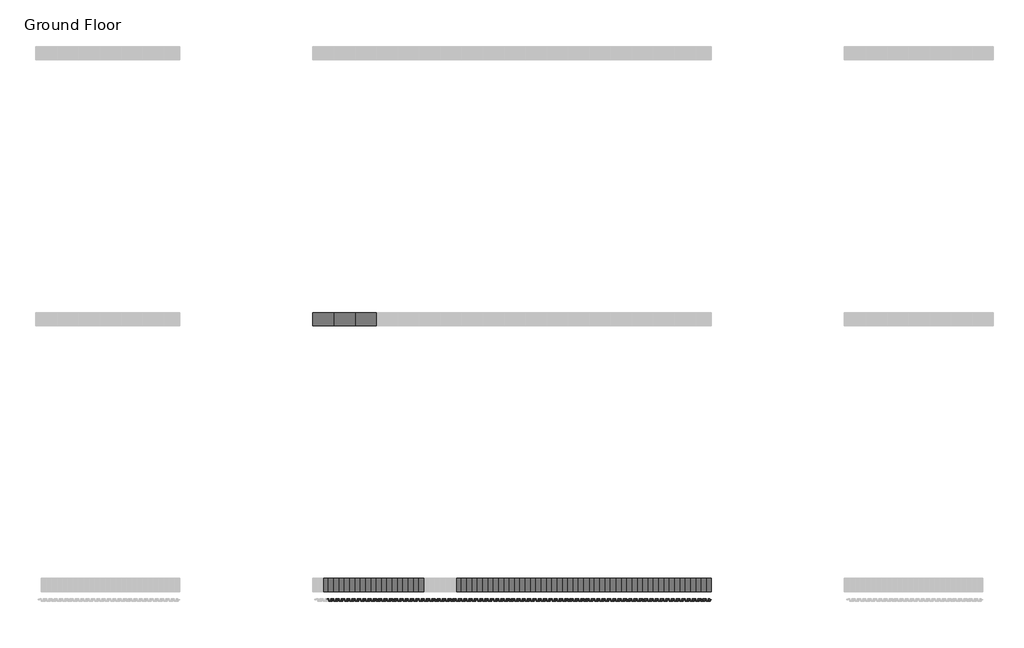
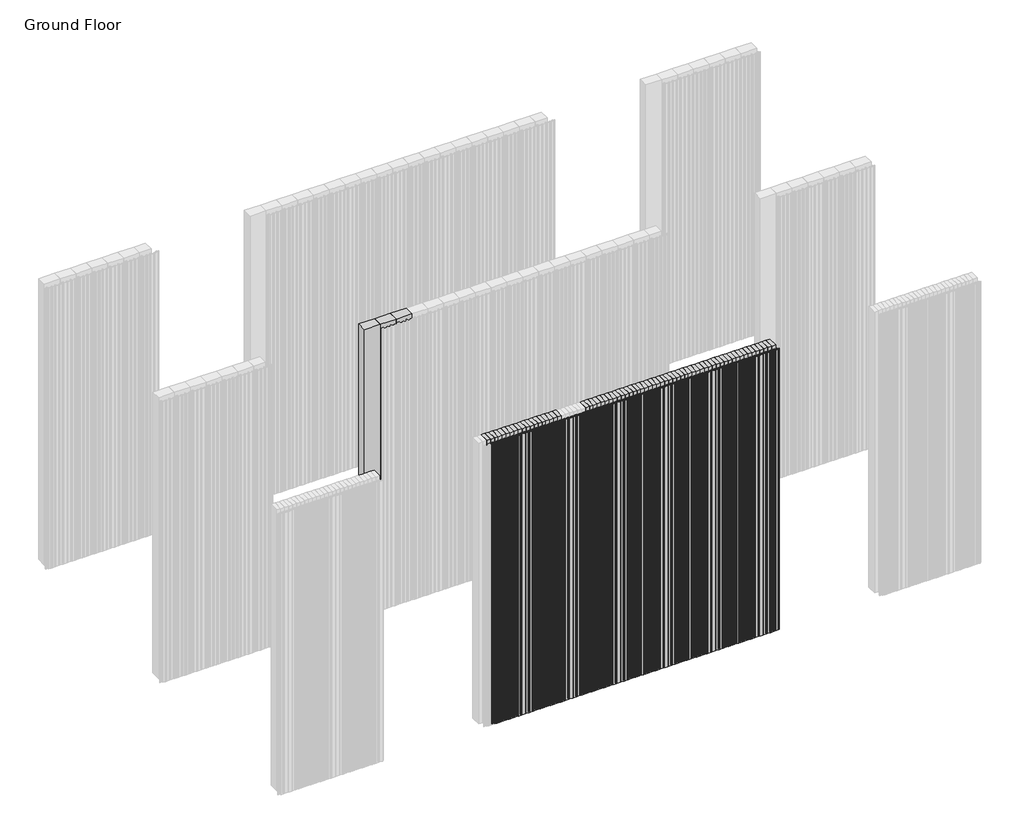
# One storey, part 25 of 350: 72 members, 70 plates.
"""IFC4 building model written with IfcOpenShell, lengths in millimetres."""

from ifc_helpers import new_model, si_unit, origin, place, context, project, spatial, transform, mapped, element, save
from components import rectangular_mullion_4c3290df, empty_system_panel_empty_086c6263, empty_system_panel_empty_a0fcacb3, empty_system_panel_empty_3b645525

model = new_model("IFC4")

# Units and contexts
model_context = context("Model", 3, world=origin())
ifc_project = project(units=[si_unit("LENGTHUNIT", "METRE", prefix="MILLI")], contexts=[model_context])

# Site, building, storey
site = spatial("IfcSite", under=ifc_project)
building = spatial("IfcBuilding", under=site)
storey = spatial("IfcBuildingStorey", under=building, Name="Ground Floor", Elevation=0.0)

# Members
placement = place(None, origin())
rectangular_mullion_shape = rectangular_mullion_4c3290df(model_context)
element("IfcMember", 1, ObjectType="Rectangular Mullion : Cladding_Aluminium_Modinex_AluSelekta_Castelation_ScreenClad_40_EnglishOak", at=placement, inside=storey, context=model_context, shape_type="MappedRepresentation", body=[
    mapped(rectangular_mullion_shape, transform((39156.4361642, 4968.2978302, 0.0), x_axis=(1.0, 0.0, 0.0), y_axis=(0.0, -1.0, 0.0), z_axis=(0.0, 0.0, -1.0))),
])
element("IfcMember", 2, ObjectType="Rectangular Mullion : Cladding_Aluminium_Modinex_AluSelekta_Castelation_ScreenClad_40_EnglishOak", at=placement, inside=storey, context=model_context, shape_type="MappedRepresentation", body=[
    mapped(rectangular_mullion_shape, transform((39196.4361642, 4968.2978302, 0.0), x_axis=(1.0, 0.0, 0.0), y_axis=(0.0, -1.0, 0.0), z_axis=(0.0, 0.0, -1.0))),
])
element("IfcMember", 3, ObjectType="Rectangular Mullion : Cladding_Aluminium_Modinex_AluSelekta_Castelation_ScreenClad_40_EnglishOak", at=placement, inside=storey, context=model_context, shape_type="MappedRepresentation", body=[
    mapped(rectangular_mullion_shape, transform((39236.4361642, 4968.2978302, 0.0), x_axis=(1.0, 0.0, 0.0), y_axis=(0.0, -1.0, 0.0), z_axis=(0.0, 0.0, -1.0))),
])
element("IfcMember", 4, ObjectType="Rectangular Mullion : Cladding_Aluminium_Modinex_AluSelekta_Castelation_ScreenClad_40_EnglishOak", at=placement, inside=storey, context=model_context, shape_type="MappedRepresentation", body=[
    mapped(rectangular_mullion_shape, transform((39276.4361642, 4968.2978302, 0.0), x_axis=(1.0, 0.0, 0.0), y_axis=(0.0, -1.0, 0.0), z_axis=(0.0, 0.0, -1.0))),
])
element("IfcMember", 5, ObjectType="Rectangular Mullion : Cladding_Aluminium_Modinex_AluSelekta_Castelation_ScreenClad_40_EnglishOak", at=placement, inside=storey, context=model_context, shape_type="MappedRepresentation", body=[
    mapped(rectangular_mullion_shape, transform((39316.4361642, 4968.2978302, 0.0), x_axis=(1.0, 0.0, 0.0), y_axis=(0.0, -1.0, 0.0), z_axis=(0.0, 0.0, -1.0))),
])
element("IfcMember", 6, ObjectType="Rectangular Mullion : Cladding_Aluminium_Modinex_AluSelekta_Castelation_ScreenClad_40_EnglishOak", at=placement, inside=storey, context=model_context, shape_type="MappedRepresentation", body=[
    mapped(rectangular_mullion_shape, transform((39356.4361642, 4968.2978302, 0.0), x_axis=(1.0, 0.0, 0.0), y_axis=(0.0, -1.0, 0.0), z_axis=(0.0, 0.0, -1.0))),
])
element("IfcMember", 7, ObjectType="Rectangular Mullion : Cladding_Aluminium_Modinex_AluSelekta_Castelation_ScreenClad_40_EnglishOak", at=placement, inside=storey, context=model_context, shape_type="MappedRepresentation", body=[
    mapped(rectangular_mullion_shape, transform((39396.4361642, 4968.2978302, 0.0), x_axis=(1.0, 0.0, 0.0), y_axis=(0.0, -1.0, 0.0), z_axis=(0.0, 0.0, -1.0))),
])
element("IfcMember", 8, ObjectType="Rectangular Mullion : Cladding_Aluminium_Modinex_AluSelekta_Castelation_ScreenClad_40_EnglishOak", at=placement, inside=storey, context=model_context, shape_type="MappedRepresentation", body=[
    mapped(rectangular_mullion_shape, transform((39436.4361642, 4968.2978302, 0.0), x_axis=(1.0, 0.0, 0.0), y_axis=(0.0, -1.0, 0.0), z_axis=(0.0, 0.0, -1.0))),
])
element("IfcMember", 9, ObjectType="Rectangular Mullion : Cladding_Aluminium_Modinex_AluSelekta_Castelation_ScreenClad_40_EnglishOak", at=placement, inside=storey, context=model_context, shape_type="MappedRepresentation", body=[
    mapped(rectangular_mullion_shape, transform((39476.4361642, 4968.2978302, 0.0), x_axis=(1.0, 0.0, 0.0), y_axis=(0.0, -1.0, 0.0), z_axis=(0.0, 0.0, -1.0))),
])
element("IfcMember", 10, ObjectType="Rectangular Mullion : Cladding_Aluminium_Modinex_AluSelekta_Castelation_ScreenClad_40_EnglishOak", at=placement, inside=storey, context=model_context, shape_type="MappedRepresentation", body=[
    mapped(rectangular_mullion_shape, transform((39516.4361642, 4968.2978302, 0.0), x_axis=(1.0, 0.0, 0.0), y_axis=(0.0, -1.0, 0.0), z_axis=(0.0, 0.0, -1.0))),
])
element("IfcMember", 11, ObjectType="Rectangular Mullion : Cladding_Aluminium_Modinex_AluSelekta_Castelation_ScreenClad_40_EnglishOak", at=placement, inside=storey, context=model_context, shape_type="MappedRepresentation", body=[
    mapped(rectangular_mullion_shape, transform((39556.4361642, 4968.2978302, 0.0), x_axis=(1.0, 0.0, 0.0), y_axis=(0.0, -1.0, 0.0), z_axis=(0.0, 0.0, -1.0))),
])
element("IfcMember", 12, ObjectType="Rectangular Mullion : Cladding_Aluminium_Modinex_AluSelekta_Castelation_ScreenClad_40_EnglishOak", at=placement, inside=storey, context=model_context, shape_type="MappedRepresentation", body=[
    mapped(rectangular_mullion_shape, transform((39596.4361642, 4968.2978302, 0.0), x_axis=(1.0, 0.0, 0.0), y_axis=(0.0, -1.0, 0.0), z_axis=(0.0, 0.0, -1.0))),
])
element("IfcMember", 13, ObjectType="Rectangular Mullion : Cladding_Aluminium_Modinex_AluSelekta_Castelation_ScreenClad_40_EnglishOak", at=placement, inside=storey, context=model_context, shape_type="MappedRepresentation", body=[
    mapped(rectangular_mullion_shape, transform((39636.4361642, 4968.2978302, 0.0), x_axis=(1.0, 0.0, 0.0), y_axis=(0.0, -1.0, 0.0), z_axis=(0.0, 0.0, -1.0))),
])
element("IfcMember", 14, ObjectType="Rectangular Mullion : Cladding_Aluminium_Modinex_AluSelekta_Castelation_ScreenClad_40_EnglishOak", at=placement, inside=storey, context=model_context, shape_type="MappedRepresentation", body=[
    mapped(rectangular_mullion_shape, transform((39676.4361642, 4968.2978302, 0.0), x_axis=(1.0, 0.0, 0.0), y_axis=(0.0, -1.0, 0.0), z_axis=(0.0, 0.0, -1.0))),
])
element("IfcMember", 15, ObjectType="Rectangular Mullion : Cladding_Aluminium_Modinex_AluSelekta_Castelation_ScreenClad_40_EnglishOak", at=placement, inside=storey, context=model_context, shape_type="MappedRepresentation", body=[
    mapped(rectangular_mullion_shape, transform((39716.4361642, 4968.2978302, 0.0), x_axis=(1.0, 0.0, 0.0), y_axis=(0.0, -1.0, 0.0), z_axis=(0.0, 0.0, -1.0))),
])
element("IfcMember", 16, ObjectType="Rectangular Mullion : Cladding_Aluminium_Modinex_AluSelekta_Castelation_ScreenClad_40_EnglishOak", at=placement, inside=storey, context=model_context, shape_type="MappedRepresentation", body=[
    mapped(rectangular_mullion_shape, transform((39756.4361642, 4968.2978302, 0.0), x_axis=(1.0, 0.0, 0.0), y_axis=(0.0, -1.0, 0.0), z_axis=(0.0, 0.0, -1.0))),
])
element("IfcMember", 17, ObjectType="Rectangular Mullion : Cladding_Aluminium_Modinex_AluSelekta_Castelation_ScreenClad_40_EnglishOak", at=placement, inside=storey, context=model_context, shape_type="MappedRepresentation", body=[
    mapped(rectangular_mullion_shape, transform((39796.4361642, 4968.2978302, 0.0), x_axis=(1.0, 0.0, 0.0), y_axis=(0.0, -1.0, 0.0), z_axis=(0.0, 0.0, -1.0))),
])
element("IfcMember", 18, ObjectType="Rectangular Mullion : Cladding_Aluminium_Modinex_AluSelekta_Castelation_ScreenClad_40_EnglishOak", at=placement, inside=storey, context=model_context, shape_type="MappedRepresentation", body=[
    mapped(rectangular_mullion_shape, transform((39836.4361642, 4968.2978302, 0.0), x_axis=(1.0, 0.0, 0.0), y_axis=(0.0, -1.0, 0.0), z_axis=(0.0, 0.0, -1.0))),
])
element("IfcMember", 19, ObjectType="Rectangular Mullion : Cladding_Aluminium_Modinex_AluSelekta_Castelation_ScreenClad_40_EnglishOak", at=placement, inside=storey, context=model_context, shape_type="MappedRepresentation", body=[
    mapped(rectangular_mullion_shape, transform((39876.4361642, 4968.2978302, 0.0), x_axis=(1.0, 0.0, 0.0), y_axis=(0.0, -1.0, 0.0), z_axis=(0.0, 0.0, -1.0))),
])
element("IfcMember", 20, ObjectType="Rectangular Mullion : Cladding_Aluminium_Modinex_AluSelekta_Castelation_ScreenClad_40_EnglishOak", at=placement, inside=storey, context=model_context, shape_type="MappedRepresentation", body=[
    mapped(rectangular_mullion_shape, transform((39116.4361642, 4968.2978302, 0.0), x_axis=(1.0, 0.0, 0.0), y_axis=(0.0, -1.0, 0.0), z_axis=(0.0, 0.0, -1.0))),
])
element("IfcMember", 21, ObjectType="Rectangular Mullion : Cladding_Aluminium_Modinex_AluSelekta_Castelation_ScreenClad_40_EnglishOak", at=placement, inside=storey, context=model_context, shape_type="MappedRepresentation", body=[
    mapped(rectangular_mullion_shape, transform((39076.4361642, 4968.2978302, 0.0), x_axis=(1.0, 0.0, 0.0), y_axis=(0.0, -1.0, 0.0), z_axis=(0.0, 0.0, -1.0))),
])
element("IfcMember", 22, ObjectType="Rectangular Mullion : Cladding_Aluminium_Modinex_AluSelekta_Castelation_ScreenClad_40_EnglishOak", at=placement, inside=storey, context=model_context, shape_type="MappedRepresentation", body=[
    mapped(rectangular_mullion_shape, transform((39036.4361642, 4968.2978302, 0.0), x_axis=(1.0, 0.0, 0.0), y_axis=(0.0, -1.0, 0.0), z_axis=(0.0, 0.0, -1.0))),
])
element("IfcMember", 23, ObjectType="Rectangular Mullion : Cladding_Aluminium_Modinex_AluSelekta_Castelation_ScreenClad_40_EnglishOak", at=placement, inside=storey, context=model_context, shape_type="MappedRepresentation", body=[
    mapped(rectangular_mullion_shape, transform((38996.4361642, 4968.2978302, 0.0), x_axis=(1.0, 0.0, 0.0), y_axis=(0.0, -1.0, 0.0), z_axis=(0.0, 0.0, -1.0))),
])
element("IfcMember", 24, ObjectType="Rectangular Mullion : Cladding_Aluminium_Modinex_AluSelekta_Castelation_ScreenClad_40_EnglishOak", at=placement, inside=storey, context=model_context, shape_type="MappedRepresentation", body=[
    mapped(rectangular_mullion_shape, transform((38956.4361642, 4968.2978302, 0.0), x_axis=(1.0, 0.0, 0.0), y_axis=(0.0, -1.0, 0.0), z_axis=(0.0, 0.0, -1.0))),
])
element("IfcMember", 25, ObjectType="Rectangular Mullion : Cladding_Aluminium_Modinex_AluSelekta_Castelation_ScreenClad_40_EnglishOak", at=placement, inside=storey, context=model_context, shape_type="MappedRepresentation", body=[
    mapped(rectangular_mullion_shape, transform((38916.4361642, 4968.2978302, 0.0), x_axis=(1.0, 0.0, 0.0), y_axis=(0.0, -1.0, 0.0), z_axis=(0.0, 0.0, -1.0))),
])
element("IfcMember", 26, ObjectType="Rectangular Mullion : Cladding_Aluminium_Modinex_AluSelekta_Castelation_ScreenClad_40_EnglishOak", at=placement, inside=storey, context=model_context, shape_type="MappedRepresentation", body=[
    mapped(rectangular_mullion_shape, transform((38876.4361642, 4968.2978302, 0.0), x_axis=(1.0, 0.0, 0.0), y_axis=(0.0, -1.0, 0.0), z_axis=(0.0, 0.0, -1.0))),
])
element("IfcMember", 27, ObjectType="Rectangular Mullion : Cladding_Aluminium_Modinex_AluSelekta_Castelation_ScreenClad_40_EnglishOak", at=placement, inside=storey, context=model_context, shape_type="MappedRepresentation", body=[
    mapped(rectangular_mullion_shape, transform((38836.4361642, 4968.2978302, 0.0), x_axis=(1.0, 0.0, 0.0), y_axis=(0.0, -1.0, 0.0), z_axis=(0.0, 0.0, -1.0))),
])
element("IfcMember", 28, ObjectType="Rectangular Mullion : Cladding_Aluminium_Modinex_AluSelekta_Castelation_ScreenClad_40_EnglishOak", at=placement, inside=storey, context=model_context, shape_type="MappedRepresentation", body=[
    mapped(rectangular_mullion_shape, transform((38796.4361642, 4968.2978302, 0.0), x_axis=(1.0, 0.0, 0.0), y_axis=(0.0, -1.0, 0.0), z_axis=(0.0, 0.0, -1.0))),
])
element("IfcMember", 29, ObjectType="Rectangular Mullion : Cladding_Aluminium_Modinex_AluSelekta_Castelation_ScreenClad_40_EnglishOak", at=placement, inside=storey, context=model_context, shape_type="MappedRepresentation", body=[
    mapped(rectangular_mullion_shape, transform((38756.4361642, 4968.2978302, 0.0), x_axis=(1.0, 0.0, 0.0), y_axis=(0.0, -1.0, 0.0), z_axis=(0.0, 0.0, -1.0))),
])
element("IfcMember", 30, ObjectType="Rectangular Mullion : Cladding_Aluminium_Modinex_AluSelekta_Castelation_ScreenClad_40_EnglishOak", at=placement, inside=storey, context=model_context, shape_type="MappedRepresentation", body=[
    mapped(rectangular_mullion_shape, transform((38716.4361642, 4968.2978302, 0.0), x_axis=(1.0, 0.0, 0.0), y_axis=(0.0, -1.0, 0.0), z_axis=(0.0, 0.0, -1.0))),
])
element("IfcMember", 31, ObjectType="Rectangular Mullion : Cladding_Aluminium_Modinex_AluSelekta_Castelation_ScreenClad_40_EnglishOak", at=placement, inside=storey, context=model_context, shape_type="MappedRepresentation", body=[
    mapped(rectangular_mullion_shape, transform((38676.4361642, 4968.2978302, 0.0), x_axis=(1.0, 0.0, 0.0), y_axis=(0.0, -1.0, 0.0), z_axis=(0.0, 0.0, -1.0))),
])
element("IfcMember", 32, ObjectType="Rectangular Mullion : Cladding_Aluminium_Modinex_AluSelekta_Castelation_ScreenClad_40_EnglishOak", at=placement, inside=storey, context=model_context, shape_type="MappedRepresentation", body=[
    mapped(rectangular_mullion_shape, transform((38636.4361642, 4968.2978302, 0.0), x_axis=(1.0, 0.0, 0.0), y_axis=(0.0, -1.0, 0.0), z_axis=(0.0, 0.0, -1.0))),
])
element("IfcMember", 33, ObjectType="Rectangular Mullion : Cladding_Aluminium_Modinex_AluSelekta_Castelation_ScreenClad_40_EnglishOak", at=placement, inside=storey, context=model_context, shape_type="MappedRepresentation", body=[
    mapped(rectangular_mullion_shape, transform((38596.4361642, 4968.2978302, 0.0), x_axis=(1.0, 0.0, 0.0), y_axis=(0.0, -1.0, 0.0), z_axis=(0.0, 0.0, -1.0))),
])
element("IfcMember", 34, ObjectType="Rectangular Mullion : Cladding_Aluminium_Modinex_AluSelekta_Castelation_ScreenClad_40_EnglishOak", at=placement, inside=storey, context=model_context, shape_type="MappedRepresentation", body=[
    mapped(rectangular_mullion_shape, transform((38556.4361642, 4968.2978302, 0.0), x_axis=(1.0, 0.0, 0.0), y_axis=(0.0, -1.0, 0.0), z_axis=(0.0, 0.0, -1.0))),
])
element("IfcMember", 35, ObjectType="Rectangular Mullion : Cladding_Aluminium_Modinex_AluSelekta_Castelation_ScreenClad_40_EnglishOak", at=placement, inside=storey, context=model_context, shape_type="MappedRepresentation", body=[
    mapped(rectangular_mullion_shape, transform((38516.4361642, 4968.2978302, 0.0), x_axis=(1.0, 0.0, 0.0), y_axis=(0.0, -1.0, 0.0), z_axis=(0.0, 0.0, -1.0))),
])
element("IfcMember", 36, ObjectType="Rectangular Mullion : Cladding_Aluminium_Modinex_AluSelekta_Castelation_ScreenClad_40_EnglishOak", at=placement, inside=storey, context=model_context, shape_type="MappedRepresentation", body=[
    mapped(rectangular_mullion_shape, transform((38476.4361642, 4968.2978302, 0.0), x_axis=(1.0, 0.0, 0.0), y_axis=(0.0, -1.0, 0.0), z_axis=(0.0, 0.0, -1.0))),
])
element("IfcMember", 37, ObjectType="Rectangular Mullion : Cladding_Aluminium_Modinex_AluSelekta_Castelation_ScreenClad_40_EnglishOak", at=placement, inside=storey, context=model_context, shape_type="MappedRepresentation", body=[
    mapped(rectangular_mullion_shape, transform((38436.4361642, 4968.2978302, 0.0), x_axis=(1.0, 0.0, 0.0), y_axis=(0.0, -1.0, 0.0), z_axis=(0.0, 0.0, -1.0))),
])
element("IfcMember", 38, ObjectType="Rectangular Mullion : Cladding_Aluminium_Modinex_AluSelekta_Castelation_ScreenClad_40_EnglishOak", at=placement, inside=storey, context=model_context, shape_type="MappedRepresentation", body=[
    mapped(rectangular_mullion_shape, transform((38396.4361642, 4968.2978302, 0.0), x_axis=(1.0, 0.0, 0.0), y_axis=(0.0, -1.0, 0.0), z_axis=(0.0, 0.0, -1.0))),
])
element("IfcMember", 39, ObjectType="Rectangular Mullion : Cladding_Aluminium_Modinex_AluSelekta_Castelation_ScreenClad_40_EnglishOak", at=placement, inside=storey, context=model_context, shape_type="MappedRepresentation", body=[
    mapped(rectangular_mullion_shape, transform((38356.4361642, 4968.2978302, 0.0), x_axis=(1.0, 0.0, 0.0), y_axis=(0.0, -1.0, 0.0), z_axis=(0.0, 0.0, -1.0))),
])
element("IfcMember", 40, ObjectType="Rectangular Mullion : Cladding_Aluminium_Modinex_AluSelekta_Castelation_ScreenClad_40_EnglishOak", at=placement, inside=storey, context=model_context, shape_type="MappedRepresentation", body=[
    mapped(rectangular_mullion_shape, transform((38316.4361642, 4968.2978302, 0.0), x_axis=(1.0, 0.0, 0.0), y_axis=(0.0, -1.0, 0.0), z_axis=(0.0, 0.0, -1.0))),
])
element("IfcMember", 41, ObjectType="Rectangular Mullion : Cladding_Aluminium_Modinex_AluSelekta_Castelation_ScreenClad_40_EnglishOak", at=placement, inside=storey, context=model_context, shape_type="MappedRepresentation", body=[
    mapped(rectangular_mullion_shape, transform((38276.4361642, 4968.2978302, 0.0), x_axis=(1.0, 0.0, 0.0), y_axis=(0.0, -1.0, 0.0), z_axis=(0.0, 0.0, -1.0))),
])
element("IfcMember", 42, ObjectType="Rectangular Mullion : Cladding_Aluminium_Modinex_AluSelekta_Castelation_ScreenClad_40_EnglishOak", at=placement, inside=storey, context=model_context, shape_type="MappedRepresentation", body=[
    mapped(rectangular_mullion_shape, transform((38236.4361642, 4968.2978302, 0.0), x_axis=(1.0, 0.0, 0.0), y_axis=(0.0, -1.0, 0.0), z_axis=(0.0, 0.0, -1.0))),
])
element("IfcMember", 43, ObjectType="Rectangular Mullion : Cladding_Aluminium_Modinex_AluSelekta_Castelation_ScreenClad_40_EnglishOak", at=placement, inside=storey, context=model_context, shape_type="MappedRepresentation", body=[
    mapped(rectangular_mullion_shape, transform((38196.4361642, 4968.2978302, 0.0), x_axis=(1.0, 0.0, 0.0), y_axis=(0.0, -1.0, 0.0), z_axis=(0.0, 0.0, -1.0))),
])
element("IfcMember", 44, ObjectType="Rectangular Mullion : Cladding_Aluminium_Modinex_AluSelekta_Castelation_ScreenClad_40_EnglishOak", at=placement, inside=storey, context=model_context, shape_type="MappedRepresentation", body=[
    mapped(rectangular_mullion_shape, transform((38156.4361642, 4968.2978302, 0.0), x_axis=(1.0, 0.0, 0.0), y_axis=(0.0, -1.0, 0.0), z_axis=(0.0, 0.0, -1.0))),
])
element("IfcMember", 45, ObjectType="Rectangular Mullion : Cladding_Aluminium_Modinex_AluSelekta_Castelation_ScreenClad_40_EnglishOak", at=placement, inside=storey, context=model_context, shape_type="MappedRepresentation", body=[
    mapped(rectangular_mullion_shape, transform((38116.4361642, 4968.2978302, 0.0), x_axis=(1.0, 0.0, 0.0), y_axis=(0.0, -1.0, 0.0), z_axis=(0.0, 0.0, -1.0))),
])
element("IfcMember", 46, ObjectType="Rectangular Mullion : Cladding_Aluminium_Modinex_AluSelekta_Castelation_ScreenClad_40_EnglishOak", at=placement, inside=storey, context=model_context, shape_type="MappedRepresentation", body=[
    mapped(rectangular_mullion_shape, transform((38076.4361642, 4968.2978302, 0.0), x_axis=(1.0, 0.0, 0.0), y_axis=(0.0, -1.0, 0.0), z_axis=(0.0, 0.0, -1.0))),
])
element("IfcMember", 47, ObjectType="Rectangular Mullion : Cladding_Aluminium_Modinex_AluSelekta_Castelation_ScreenClad_40_EnglishOak", at=placement, inside=storey, context=model_context, shape_type="MappedRepresentation", body=[
    mapped(rectangular_mullion_shape, transform((38036.4361642, 4968.2978302, 0.0), x_axis=(1.0, 0.0, 0.0), y_axis=(0.0, -1.0, 0.0), z_axis=(0.0, 0.0, -1.0))),
])
element("IfcMember", 48, ObjectType="Rectangular Mullion : Cladding_Aluminium_Modinex_AluSelekta_Castelation_ScreenClad_40_EnglishOak", at=placement, inside=storey, context=model_context, shape_type="MappedRepresentation", body=[
    mapped(rectangular_mullion_shape, transform((37996.4361642, 4968.2978302, 0.0), x_axis=(1.0, 0.0, 0.0), y_axis=(0.0, -1.0, 0.0), z_axis=(0.0, 0.0, -1.0))),
])
element("IfcMember", 49, ObjectType="Rectangular Mullion : Cladding_Aluminium_Modinex_AluSelekta_Castelation_ScreenClad_40_EnglishOak", at=placement, inside=storey, context=model_context, shape_type="MappedRepresentation", body=[
    mapped(rectangular_mullion_shape, transform((37956.4361642, 4968.2978302, 0.0), x_axis=(1.0, 0.0, 0.0), y_axis=(0.0, -1.0, 0.0), z_axis=(0.0, 0.0, -1.0))),
])
element("IfcMember", 50, ObjectType="Rectangular Mullion : Cladding_Aluminium_Modinex_AluSelekta_Castelation_ScreenClad_40_EnglishOak", at=placement, inside=storey, context=model_context, shape_type="MappedRepresentation", body=[
    mapped(rectangular_mullion_shape, transform((37916.4361642, 4968.2978302, 0.0), x_axis=(1.0, 0.0, 0.0), y_axis=(0.0, -1.0, 0.0), z_axis=(0.0, 0.0, -1.0))),
])
element("IfcMember", 51, ObjectType="Rectangular Mullion : Cladding_Aluminium_Modinex_AluSelekta_Castelation_ScreenClad_40_EnglishOak", at=placement, inside=storey, context=model_context, shape_type="MappedRepresentation", body=[
    mapped(rectangular_mullion_shape, transform((37876.4361642, 4968.2978302, 0.0), x_axis=(1.0, 0.0, 0.0), y_axis=(0.0, -1.0, 0.0), z_axis=(0.0, 0.0, -1.0))),
])
element("IfcMember", 52, ObjectType="Rectangular Mullion : Cladding_Aluminium_Modinex_AluSelekta_Castelation_ScreenClad_40_EnglishOak", at=placement, inside=storey, context=model_context, shape_type="MappedRepresentation", body=[
    mapped(rectangular_mullion_shape, transform((37836.4361642, 4968.2978302, 0.0), x_axis=(1.0, 0.0, 0.0), y_axis=(0.0, -1.0, 0.0), z_axis=(0.0, 0.0, -1.0))),
])
element("IfcMember", 53, ObjectType="Rectangular Mullion : Cladding_Aluminium_Modinex_AluSelekta_Castelation_ScreenClad_40_EnglishOak", at=placement, inside=storey, context=model_context, shape_type="MappedRepresentation", body=[
    mapped(rectangular_mullion_shape, transform((37796.4361642, 4968.2978302, 0.0), x_axis=(1.0, 0.0, 0.0), y_axis=(0.0, -1.0, 0.0), z_axis=(0.0, 0.0, -1.0))),
])
element("IfcMember", 54, ObjectType="Rectangular Mullion : Cladding_Aluminium_Modinex_AluSelekta_Castelation_ScreenClad_40_EnglishOak", at=placement, inside=storey, context=model_context, shape_type="MappedRepresentation", body=[
    mapped(rectangular_mullion_shape, transform((37756.4361642, 4968.2978302, 0.0), x_axis=(1.0, 0.0, 0.0), y_axis=(0.0, -1.0, 0.0), z_axis=(0.0, 0.0, -1.0))),
])
element("IfcMember", 55, ObjectType="Rectangular Mullion : Cladding_Aluminium_Modinex_AluSelekta_Castelation_ScreenClad_40_EnglishOak", at=placement, inside=storey, context=model_context, shape_type="MappedRepresentation", body=[
    mapped(rectangular_mullion_shape, transform((37716.4361642, 4968.2978302, 0.0), x_axis=(1.0, 0.0, 0.0), y_axis=(0.0, -1.0, 0.0), z_axis=(0.0, 0.0, -1.0))),
])
element("IfcMember", 56, ObjectType="Rectangular Mullion : Cladding_Aluminium_Modinex_AluSelekta_Castelation_ScreenClad_40_EnglishOak", at=placement, inside=storey, context=model_context, shape_type="MappedRepresentation", body=[
    mapped(rectangular_mullion_shape, transform((37676.4361642, 4968.2978302, 0.0), x_axis=(1.0, 0.0, 0.0), y_axis=(0.0, -1.0, 0.0), z_axis=(0.0, 0.0, -1.0))),
])
element("IfcMember", 57, ObjectType="Rectangular Mullion : Cladding_Aluminium_Modinex_AluSelekta_Castelation_ScreenClad_40_EnglishOak", at=placement, inside=storey, context=model_context, shape_type="MappedRepresentation", body=[
    mapped(rectangular_mullion_shape, transform((37636.4361642, 4968.2978302, 0.0), x_axis=(1.0, 0.0, 0.0), y_axis=(0.0, -1.0, 0.0), z_axis=(0.0, 0.0, -1.0))),
])
element("IfcMember", 58, ObjectType="Rectangular Mullion : Cladding_Aluminium_Modinex_AluSelekta_Castelation_ScreenClad_40_EnglishOak", at=placement, inside=storey, context=model_context, shape_type="MappedRepresentation", body=[
    mapped(rectangular_mullion_shape, transform((37596.4361642, 4968.2978302, 0.0), x_axis=(1.0, 0.0, 0.0), y_axis=(0.0, -1.0, 0.0), z_axis=(0.0, 0.0, -1.0))),
])
element("IfcMember", 59, ObjectType="Rectangular Mullion : Cladding_Aluminium_Modinex_AluSelekta_Castelation_ScreenClad_40_EnglishOak", at=placement, inside=storey, context=model_context, shape_type="MappedRepresentation", body=[
    mapped(rectangular_mullion_shape, transform((37556.4361642, 4968.2978302, 0.0), x_axis=(1.0, 0.0, 0.0), y_axis=(0.0, -1.0, 0.0), z_axis=(0.0, 0.0, -1.0))),
])
element("IfcMember", 60, ObjectType="Rectangular Mullion : Cladding_Aluminium_Modinex_AluSelekta_Castelation_ScreenClad_40_EnglishOak", at=placement, inside=storey, context=model_context, shape_type="MappedRepresentation", body=[
    mapped(rectangular_mullion_shape, transform((37516.4361642, 4968.2978302, 0.0), x_axis=(1.0, 0.0, 0.0), y_axis=(0.0, -1.0, 0.0), z_axis=(0.0, 0.0, -1.0))),
])
element("IfcMember", 61, ObjectType="Rectangular Mullion : Cladding_Aluminium_Modinex_AluSelekta_Castelation_ScreenClad_40_EnglishOak", at=placement, inside=storey, context=model_context, shape_type="MappedRepresentation", body=[
    mapped(rectangular_mullion_shape, transform((37476.4361642, 4968.2978302, 0.0), x_axis=(1.0, 0.0, 0.0), y_axis=(0.0, -1.0, 0.0), z_axis=(0.0, 0.0, -1.0))),
])
element("IfcMember", 62, ObjectType="Rectangular Mullion : Cladding_Aluminium_Modinex_AluSelekta_Castelation_ScreenClad_40_EnglishOak", at=placement, inside=storey, context=model_context, shape_type="MappedRepresentation", body=[
    mapped(rectangular_mullion_shape, transform((37436.4361642, 4968.2978302, 0.0), x_axis=(1.0, 0.0, 0.0), y_axis=(0.0, -1.0, 0.0), z_axis=(0.0, 0.0, -1.0))),
])
element("IfcMember", 63, ObjectType="Rectangular Mullion : Cladding_Aluminium_Modinex_AluSelekta_Castelation_ScreenClad_40_EnglishOak", at=placement, inside=storey, context=model_context, shape_type="MappedRepresentation", body=[
    mapped(rectangular_mullion_shape, transform((37396.4361642, 4968.2978302, 0.0), x_axis=(1.0, 0.0, 0.0), y_axis=(0.0, -1.0, 0.0), z_axis=(0.0, 0.0, -1.0))),
])
element("IfcMember", 64, ObjectType="Rectangular Mullion : Cladding_Aluminium_Modinex_AluSelekta_Castelation_ScreenClad_40_EnglishOak", at=placement, inside=storey, context=model_context, shape_type="MappedRepresentation", body=[
    mapped(rectangular_mullion_shape, transform((37356.4361642, 4968.2978302, 0.0), x_axis=(1.0, 0.0, 0.0), y_axis=(0.0, -1.0, 0.0), z_axis=(0.0, 0.0, -1.0))),
])
element("IfcMember", 65, ObjectType="Rectangular Mullion : Cladding_Aluminium_Modinex_AluSelekta_Castelation_ScreenClad_40_EnglishOak", at=placement, inside=storey, context=model_context, shape_type="MappedRepresentation", body=[
    mapped(rectangular_mullion_shape, transform((37316.4361642, 4968.2978302, 0.0), x_axis=(1.0, 0.0, 0.0), y_axis=(0.0, -1.0, 0.0), z_axis=(0.0, 0.0, -1.0))),
])
element("IfcMember", 66, ObjectType="Rectangular Mullion : Cladding_Aluminium_Modinex_AluSelekta_Castelation_ScreenClad_40_EnglishOak", at=placement, inside=storey, context=model_context, shape_type="MappedRepresentation", body=[
    mapped(rectangular_mullion_shape, transform((37276.4361642, 4968.2978302, 0.0), x_axis=(1.0, 0.0, 0.0), y_axis=(0.0, -1.0, 0.0), z_axis=(0.0, 0.0, -1.0))),
])
element("IfcMember", 67, ObjectType="Rectangular Mullion : Cladding_Aluminium_Modinex_AluSelekta_Castelation_ScreenClad_40_EnglishOak", at=placement, inside=storey, context=model_context, shape_type="MappedRepresentation", body=[
    mapped(rectangular_mullion_shape, transform((37236.4361642, 4968.2978302, 0.0), x_axis=(1.0, 0.0, 0.0), y_axis=(0.0, -1.0, 0.0), z_axis=(0.0, 0.0, -1.0))),
])
element("IfcMember", 68, ObjectType="Rectangular Mullion : Cladding_Aluminium_Modinex_AluSelekta_Castelation_ScreenClad_40_EnglishOak", at=placement, inside=storey, context=model_context, shape_type="MappedRepresentation", body=[
    mapped(rectangular_mullion_shape, transform((37196.4361642, 4968.2978302, 0.0), x_axis=(1.0, 0.0, 0.0), y_axis=(0.0, -1.0, 0.0), z_axis=(0.0, 0.0, -1.0))),
])
element("IfcMember", 69, ObjectType="Rectangular Mullion : Cladding_Aluminium_Modinex_AluSelekta_Castelation_ScreenClad_40_EnglishOak", at=placement, inside=storey, context=model_context, shape_type="MappedRepresentation", body=[
    mapped(rectangular_mullion_shape, transform((37156.4361642, 4968.2978302, 0.0), x_axis=(1.0, 0.0, 0.0), y_axis=(0.0, -1.0, 0.0), z_axis=(0.0, 0.0, -1.0))),
])
element("IfcMember", 70, ObjectType="Rectangular Mullion : Cladding_Aluminium_Modinex_AluSelekta_Castelation_ScreenClad_40_EnglishOak", at=placement, inside=storey, context=model_context, shape_type="MappedRepresentation", body=[
    mapped(rectangular_mullion_shape, transform((37116.4361642, 4968.2978302, 0.0), x_axis=(1.0, 0.0, 0.0), y_axis=(0.0, -1.0, 0.0), z_axis=(0.0, 0.0, -1.0))),
])
element("IfcMember", 71, ObjectType="Rectangular Mullion : Cladding_Aluminium_Modinex_AluSelekta_Castelation_ScreenClad_40_EnglishOak", at=placement, inside=storey, context=model_context, shape_type="MappedRepresentation", body=[
    mapped(rectangular_mullion_shape, transform((37076.4361642, 4968.2978302, 0.0), x_axis=(1.0, 0.0, 0.0), y_axis=(0.0, -1.0, 0.0), z_axis=(0.0, 0.0, -1.0))),
])
element("IfcMember", 72, ObjectType="Rectangular Mullion : Cladding_Aluminium_Modinex_AluSelekta_Castelation_ScreenClad_40_EnglishOak", at=placement, inside=storey, context=model_context, shape_type="MappedRepresentation", body=[
    mapped(rectangular_mullion_shape, transform((37036.4361642, 4968.2978302, 0.0), x_axis=(1.0, 0.0, 0.0), y_axis=(0.0, -1.0, 0.0), z_axis=(0.0, 0.0, -1.0))),
])

# Plates
empty_system_panel_empty_shape = empty_system_panel_empty_086c6263(model_context)
element("IfcPlate", 73, ObjectType="Empty System Panel : Empty", at=placement, inside=storey, context=model_context, shape_type="MappedRepresentation", body=[
    mapped(empty_system_panel_empty_shape, transform((39176.4361642, 4968.2978302, 0.0), x_axis=(1.0, 0.0, 0.0), y_axis=(0.0, 1.0, 0.0), z_axis=(0.0, 0.0, 1.0))),
])
element("IfcPlate", 74, ObjectType="Empty System Panel : Empty", at=placement, inside=storey, context=model_context, shape_type="MappedRepresentation", body=[
    mapped(empty_system_panel_empty_shape, transform((39216.4361642, 4968.2978302, 0.0), x_axis=(1.0, 0.0, 0.0), y_axis=(0.0, 1.0, 0.0), z_axis=(0.0, 0.0, 1.0))),
])
element("IfcPlate", 75, ObjectType="Empty System Panel : Empty", at=placement, inside=storey, context=model_context, shape_type="MappedRepresentation", body=[
    mapped(empty_system_panel_empty_shape, transform((39256.4361642, 4968.2978302, 0.0), x_axis=(1.0, 0.0, 0.0), y_axis=(0.0, 1.0, 0.0), z_axis=(0.0, 0.0, 1.0))),
])
element("IfcPlate", 76, ObjectType="Empty System Panel : Empty", at=placement, inside=storey, context=model_context, shape_type="MappedRepresentation", body=[
    mapped(empty_system_panel_empty_shape, transform((39296.4361642, 4968.2978302, 0.0), x_axis=(1.0, 0.0, 0.0), y_axis=(0.0, 1.0, 0.0), z_axis=(0.0, 0.0, 1.0))),
])
element("IfcPlate", 77, ObjectType="Empty System Panel : Empty", at=placement, inside=storey, context=model_context, shape_type="MappedRepresentation", body=[
    mapped(empty_system_panel_empty_shape, transform((39336.4361642, 4968.2978302, 0.0), x_axis=(1.0, 0.0, 0.0), y_axis=(0.0, 1.0, 0.0), z_axis=(0.0, 0.0, 1.0))),
])
element("IfcPlate", 78, ObjectType="Empty System Panel : Empty", at=placement, inside=storey, context=model_context, shape_type="MappedRepresentation", body=[
    mapped(empty_system_panel_empty_shape, transform((39376.4361642, 4968.2978302, 0.0), x_axis=(1.0, 0.0, 0.0), y_axis=(0.0, 1.0, 0.0), z_axis=(0.0, 0.0, 1.0))),
])
element("IfcPlate", 79, ObjectType="Empty System Panel : Empty", at=placement, inside=storey, context=model_context, shape_type="MappedRepresentation", body=[
    mapped(empty_system_panel_empty_shape, transform((39416.4361642, 4968.2978302, 0.0), x_axis=(1.0, 0.0, 0.0), y_axis=(0.0, 1.0, 0.0), z_axis=(0.0, 0.0, 1.0))),
])
element("IfcPlate", 80, ObjectType="Empty System Panel : Empty", at=placement, inside=storey, context=model_context, shape_type="MappedRepresentation", body=[
    mapped(empty_system_panel_empty_shape, transform((39456.4361642, 4968.2978302, 0.0), x_axis=(1.0, 0.0, 0.0), y_axis=(0.0, 1.0, 0.0), z_axis=(0.0, 0.0, 1.0))),
])
element("IfcPlate", 81, ObjectType="Empty System Panel : Empty", at=placement, inside=storey, context=model_context, shape_type="MappedRepresentation", body=[
    mapped(empty_system_panel_empty_shape, transform((39496.4361642, 4968.2978302, 0.0), x_axis=(1.0, 0.0, 0.0), y_axis=(0.0, 1.0, 0.0), z_axis=(0.0, 0.0, 1.0))),
])
element("IfcPlate", 82, ObjectType="Empty System Panel : Empty", at=placement, inside=storey, context=model_context, shape_type="MappedRepresentation", body=[
    mapped(empty_system_panel_empty_shape, transform((39536.4361642, 4968.2978302, 0.0), x_axis=(1.0, 0.0, 0.0), y_axis=(0.0, 1.0, 0.0), z_axis=(0.0, 0.0, 1.0))),
])
element("IfcPlate", 83, ObjectType="Empty System Panel : Empty", at=placement, inside=storey, context=model_context, shape_type="MappedRepresentation", body=[
    mapped(empty_system_panel_empty_shape, transform((39576.4361642, 4968.2978302, 0.0), x_axis=(1.0, 0.0, 0.0), y_axis=(0.0, 1.0, 0.0), z_axis=(0.0, 0.0, 1.0))),
])
element("IfcPlate", 84, ObjectType="Empty System Panel : Empty", at=placement, inside=storey, context=model_context, shape_type="MappedRepresentation", body=[
    mapped(empty_system_panel_empty_shape, transform((39616.4361642, 4968.2978302, 0.0), x_axis=(1.0, 0.0, 0.0), y_axis=(0.0, 1.0, 0.0), z_axis=(0.0, 0.0, 1.0))),
])
element("IfcPlate", 85, ObjectType="Empty System Panel : Empty", at=placement, inside=storey, context=model_context, shape_type="MappedRepresentation", body=[
    mapped(empty_system_panel_empty_shape, transform((39656.4361642, 4968.2978302, 0.0), x_axis=(1.0, 0.0, 0.0), y_axis=(0.0, 1.0, 0.0), z_axis=(0.0, 0.0, 1.0))),
])
element("IfcPlate", 86, ObjectType="Empty System Panel : Empty", at=placement, inside=storey, context=model_context, shape_type="MappedRepresentation", body=[
    mapped(empty_system_panel_empty_shape, transform((39696.4361642, 4968.2978302, 0.0), x_axis=(1.0, 0.0, 0.0), y_axis=(0.0, 1.0, 0.0), z_axis=(0.0, 0.0, 1.0))),
])
element("IfcPlate", 87, ObjectType="Empty System Panel : Empty", at=placement, inside=storey, context=model_context, shape_type="MappedRepresentation", body=[
    mapped(empty_system_panel_empty_shape, transform((39736.4361642, 4968.2978302, 0.0), x_axis=(1.0, 0.0, 0.0), y_axis=(0.0, 1.0, 0.0), z_axis=(0.0, 0.0, 1.0))),
])
element("IfcPlate", 88, ObjectType="Empty System Panel : Empty", at=placement, inside=storey, context=model_context, shape_type="MappedRepresentation", body=[
    mapped(empty_system_panel_empty_shape, transform((39776.4361642, 4968.2978302, 0.0), x_axis=(1.0, 0.0, 0.0), y_axis=(0.0, 1.0, 0.0), z_axis=(0.0, 0.0, 1.0))),
])
element("IfcPlate", 89, ObjectType="Empty System Panel : Empty", at=placement, inside=storey, context=model_context, shape_type="MappedRepresentation", body=[
    mapped(empty_system_panel_empty_shape, transform((39816.4361642, 4968.2978302, 0.0), x_axis=(1.0, 0.0, 0.0), y_axis=(0.0, 1.0, 0.0), z_axis=(0.0, 0.0, 1.0))),
])
element("IfcPlate", 90, ObjectType="Empty System Panel : Empty", at=placement, inside=storey, context=model_context, shape_type="MappedRepresentation", body=[
    mapped(empty_system_panel_empty_shape, transform((39856.4361642, 4968.2978302, 0.0), x_axis=(1.0, 0.0, 0.0), y_axis=(0.0, 1.0, 0.0), z_axis=(0.0, 0.0, 1.0))),
])
element("IfcPlate", 91, ObjectType="Empty System Panel : Empty", at=placement, inside=storey, context=model_context, shape_type="MappedRepresentation", body=[
    mapped(empty_system_panel_empty_shape, transform((39136.4361642, 4968.2978302, 0.0), x_axis=(1.0, 0.0, 0.0), y_axis=(0.0, 1.0, 0.0), z_axis=(0.0, 0.0, 1.0))),
])
element("IfcPlate", 92, ObjectType="Empty System Panel : Empty", at=placement, inside=storey, context=model_context, shape_type="MappedRepresentation", body=[
    mapped(empty_system_panel_empty_shape, transform((39096.4361642, 4968.2978302, 0.0), x_axis=(1.0, 0.0, 0.0), y_axis=(0.0, 1.0, 0.0), z_axis=(0.0, 0.0, 1.0))),
])
element("IfcPlate", 93, ObjectType="Empty System Panel : Empty", at=placement, inside=storey, context=model_context, shape_type="MappedRepresentation", body=[
    mapped(empty_system_panel_empty_shape, transform((39056.4361642, 4968.2978302, 0.0), x_axis=(1.0, 0.0, 0.0), y_axis=(0.0, 1.0, 0.0), z_axis=(0.0, 0.0, 1.0))),
])
element("IfcPlate", 94, ObjectType="Empty System Panel : Empty", at=placement, inside=storey, context=model_context, shape_type="MappedRepresentation", body=[
    mapped(empty_system_panel_empty_shape, transform((39016.4361642, 4968.2978302, 0.0), x_axis=(1.0, 0.0, 0.0), y_axis=(0.0, 1.0, 0.0), z_axis=(0.0, 0.0, 1.0))),
])
element("IfcPlate", 95, ObjectType="Empty System Panel : Empty", at=placement, inside=storey, context=model_context, shape_type="MappedRepresentation", body=[
    mapped(empty_system_panel_empty_shape, transform((38976.4361642, 4968.2978302, 0.0), x_axis=(1.0, 0.0, 0.0), y_axis=(0.0, 1.0, 0.0), z_axis=(0.0, 0.0, 1.0))),
])
element("IfcPlate", 96, ObjectType="Empty System Panel : Empty", at=placement, inside=storey, context=model_context, shape_type="MappedRepresentation", body=[
    mapped(empty_system_panel_empty_shape, transform((38936.4361642, 4968.2978302, 0.0), x_axis=(1.0, 0.0, 0.0), y_axis=(0.0, 1.0, 0.0), z_axis=(0.0, 0.0, 1.0))),
])
element("IfcPlate", 97, ObjectType="Empty System Panel : Empty", at=placement, inside=storey, context=model_context, shape_type="MappedRepresentation", body=[
    mapped(empty_system_panel_empty_shape, transform((38896.4361642, 4968.2978302, 0.0), x_axis=(1.0, 0.0, 0.0), y_axis=(0.0, 1.0, 0.0), z_axis=(0.0, 0.0, 1.0))),
])
element("IfcPlate", 98, ObjectType="Empty System Panel : Empty", at=placement, inside=storey, context=model_context, shape_type="MappedRepresentation", body=[
    mapped(empty_system_panel_empty_shape, transform((38856.4361642, 4968.2978302, 0.0), x_axis=(1.0, 0.0, 0.0), y_axis=(0.0, 1.0, 0.0), z_axis=(0.0, 0.0, 1.0))),
])
element("IfcPlate", 99, ObjectType="Empty System Panel : Empty", at=placement, inside=storey, context=model_context, shape_type="MappedRepresentation", body=[
    mapped(empty_system_panel_empty_shape, transform((38816.4361642, 4968.2978302, 0.0), x_axis=(1.0, 0.0, 0.0), y_axis=(0.0, 1.0, 0.0), z_axis=(0.0, 0.0, 1.0))),
])
element("IfcPlate", 100, ObjectType="Empty System Panel : Empty", at=placement, inside=storey, context=model_context, shape_type="MappedRepresentation", body=[
    mapped(empty_system_panel_empty_shape, transform((38776.4361642, 4968.2978302, 0.0), x_axis=(1.0, 0.0, 0.0), y_axis=(0.0, 1.0, 0.0), z_axis=(0.0, 0.0, 1.0))),
])
element("IfcPlate", 101, ObjectType="Empty System Panel : Empty", at=placement, inside=storey, context=model_context, shape_type="MappedRepresentation", body=[
    mapped(empty_system_panel_empty_shape, transform((38736.4361642, 4968.2978302, 0.0), x_axis=(1.0, 0.0, 0.0), y_axis=(0.0, 1.0, 0.0), z_axis=(0.0, 0.0, 1.0))),
])
element("IfcPlate", 102, ObjectType="Empty System Panel : Empty", at=placement, inside=storey, context=model_context, shape_type="MappedRepresentation", body=[
    mapped(empty_system_panel_empty_shape, transform((38696.4361642, 4968.2978302, 0.0), x_axis=(1.0, 0.0, 0.0), y_axis=(0.0, 1.0, 0.0), z_axis=(0.0, 0.0, 1.0))),
])
element("IfcPlate", 103, ObjectType="Empty System Panel : Empty", at=placement, inside=storey, context=model_context, shape_type="MappedRepresentation", body=[
    mapped(empty_system_panel_empty_shape, transform((38656.4361642, 4968.2978302, 0.0), x_axis=(1.0, 0.0, 0.0), y_axis=(0.0, 1.0, 0.0), z_axis=(0.0, 0.0, 1.0))),
])
element("IfcPlate", 104, ObjectType="Empty System Panel : Empty", at=placement, inside=storey, context=model_context, shape_type="MappedRepresentation", body=[
    mapped(empty_system_panel_empty_shape, transform((38616.4361642, 4968.2978302, 0.0), x_axis=(1.0, 0.0, 0.0), y_axis=(0.0, 1.0, 0.0), z_axis=(0.0, 0.0, 1.0))),
])
element("IfcPlate", 105, ObjectType="Empty System Panel : Empty", at=placement, inside=storey, context=model_context, shape_type="MappedRepresentation", body=[
    mapped(empty_system_panel_empty_shape, transform((38576.4361642, 4968.2978302, 0.0), x_axis=(1.0, 0.0, 0.0), y_axis=(0.0, 1.0, 0.0), z_axis=(0.0, 0.0, 1.0))),
])
element("IfcPlate", 106, ObjectType="Empty System Panel : Empty", at=placement, inside=storey, context=model_context, shape_type="MappedRepresentation", body=[
    mapped(empty_system_panel_empty_shape, transform((38536.4361642, 4968.2978302, 0.0), x_axis=(1.0, 0.0, 0.0), y_axis=(0.0, 1.0, 0.0), z_axis=(0.0, 0.0, 1.0))),
])
element("IfcPlate", 107, ObjectType="Empty System Panel : Empty", at=placement, inside=storey, context=model_context, shape_type="MappedRepresentation", body=[
    mapped(empty_system_panel_empty_shape, transform((38496.4361642, 4968.2978302, 0.0), x_axis=(1.0, 0.0, 0.0), y_axis=(0.0, 1.0, 0.0), z_axis=(0.0, 0.0, 1.0))),
])
element("IfcPlate", 108, ObjectType="Empty System Panel : Empty", at=placement, inside=storey, context=model_context, shape_type="MappedRepresentation", body=[
    mapped(empty_system_panel_empty_shape, transform((38456.4361642, 4968.2978302, 0.0), x_axis=(1.0, 0.0, 0.0), y_axis=(0.0, 1.0, 0.0), z_axis=(0.0, 0.0, 1.0))),
])
element("IfcPlate", 109, ObjectType="Empty System Panel : Empty", at=placement, inside=storey, context=model_context, shape_type="MappedRepresentation", body=[
    mapped(empty_system_panel_empty_shape, transform((38416.4361642, 4968.2978302, 0.0), x_axis=(1.0, 0.0, 0.0), y_axis=(0.0, 1.0, 0.0), z_axis=(0.0, 0.0, 1.0))),
])
element("IfcPlate", 110, ObjectType="Empty System Panel : Empty", at=placement, inside=storey, context=model_context, shape_type="MappedRepresentation", body=[
    mapped(empty_system_panel_empty_shape, transform((38376.4361642, 4968.2978302, 0.0), x_axis=(1.0, 0.0, 0.0), y_axis=(0.0, 1.0, 0.0), z_axis=(0.0, 0.0, 1.0))),
])
element("IfcPlate", 111, ObjectType="Empty System Panel : Empty", at=placement, inside=storey, context=model_context, shape_type="MappedRepresentation", body=[
    mapped(empty_system_panel_empty_shape, transform((38336.4361642, 4968.2978302, 0.0), x_axis=(1.0, 0.0, 0.0), y_axis=(0.0, 1.0, 0.0), z_axis=(0.0, 0.0, 1.0))),
])
element("IfcPlate", 112, ObjectType="Empty System Panel : Empty", at=placement, inside=storey, context=model_context, shape_type="MappedRepresentation", body=[
    mapped(empty_system_panel_empty_shape, transform((38296.4361642, 4968.2978302, 0.0), x_axis=(1.0, 0.0, 0.0), y_axis=(0.0, 1.0, 0.0), z_axis=(0.0, 0.0, 1.0))),
])
element("IfcPlate", 113, ObjectType="Empty System Panel : Empty", at=placement, inside=storey, context=model_context, shape_type="MappedRepresentation", body=[
    mapped(empty_system_panel_empty_shape, transform((38256.4361642, 4968.2978302, 0.0), x_axis=(1.0, 0.0, 0.0), y_axis=(0.0, 1.0, 0.0), z_axis=(0.0, 0.0, 1.0))),
])
element("IfcPlate", 114, ObjectType="Empty System Panel : Empty", at=placement, inside=storey, context=model_context, shape_type="MappedRepresentation", body=[
    mapped(empty_system_panel_empty_shape, transform((38216.4361642, 4968.2978302, 0.0), x_axis=(1.0, 0.0, 0.0), y_axis=(0.0, 1.0, 0.0), z_axis=(0.0, 0.0, 1.0))),
])
element("IfcPlate", 115, ObjectType="Empty System Panel : Empty", at=placement, inside=storey, context=model_context, shape_type="MappedRepresentation", body=[
    mapped(empty_system_panel_empty_shape, transform((38176.4361642, 4968.2978302, 0.0), x_axis=(1.0, 0.0, 0.0), y_axis=(0.0, 1.0, 0.0), z_axis=(0.0, 0.0, 1.0))),
])
element("IfcPlate", 116, ObjectType="Empty System Panel : Empty", at=placement, inside=storey, context=model_context, shape_type="MappedRepresentation", body=[
    mapped(empty_system_panel_empty_shape, transform((38136.4361642, 4968.2978302, 0.0), x_axis=(1.0, 0.0, 0.0), y_axis=(0.0, 1.0, 0.0), z_axis=(0.0, 0.0, 1.0))),
])
element("IfcPlate", 117, ObjectType="Empty System Panel : Empty", at=placement, inside=storey, context=model_context, shape_type="MappedRepresentation", body=[
    mapped(empty_system_panel_empty_shape, transform((38096.4361642, 4968.2978302, 0.0), x_axis=(1.0, 0.0, 0.0), y_axis=(0.0, 1.0, 0.0), z_axis=(0.0, 0.0, 1.0))),
])
element("IfcPlate", 118, ObjectType="Empty System Panel : Empty", at=placement, inside=storey, context=model_context, shape_type="MappedRepresentation", body=[
    mapped(empty_system_panel_empty_shape, transform((38056.4361642, 4968.2978302, 0.0), x_axis=(1.0, 0.0, 0.0), y_axis=(0.0, 1.0, 0.0), z_axis=(0.0, 0.0, 1.0))),
])
element("IfcPlate", 119, ObjectType="Empty System Panel : Empty", at=placement, inside=storey, context=model_context, shape_type="MappedRepresentation", body=[
    mapped(empty_system_panel_empty_shape, transform((38016.4361642, 4968.2978302, 0.0), x_axis=(1.0, 0.0, 0.0), y_axis=(0.0, 1.0, 0.0), z_axis=(0.0, 0.0, 1.0))),
])
element("IfcPlate", 120, ObjectType="Empty System Panel : Empty", at=placement, inside=storey, context=model_context, shape_type="MappedRepresentation", body=[
    mapped(empty_system_panel_empty_shape, transform((37736.4361642, 4968.2978302, 0.0), x_axis=(1.0, 0.0, 0.0), y_axis=(0.0, 1.0, 0.0), z_axis=(0.0, 0.0, 1.0))),
])
element("IfcPlate", 121, ObjectType="Empty System Panel : Empty", at=placement, inside=storey, context=model_context, shape_type="MappedRepresentation", body=[
    mapped(empty_system_panel_empty_shape, transform((37696.4361642, 4968.2978302, 0.0), x_axis=(1.0, 0.0, 0.0), y_axis=(0.0, 1.0, 0.0), z_axis=(0.0, 0.0, 1.0))),
])
element("IfcPlate", 122, ObjectType="Empty System Panel : Empty", at=placement, inside=storey, context=model_context, shape_type="MappedRepresentation", body=[
    mapped(empty_system_panel_empty_shape, transform((37656.4361642, 4968.2978302, 0.0), x_axis=(1.0, 0.0, 0.0), y_axis=(0.0, 1.0, 0.0), z_axis=(0.0, 0.0, 1.0))),
])
element("IfcPlate", 123, ObjectType="Empty System Panel : Empty", at=placement, inside=storey, context=model_context, shape_type="MappedRepresentation", body=[
    mapped(empty_system_panel_empty_shape, transform((37616.4361642, 4968.2978302, 0.0), x_axis=(1.0, 0.0, 0.0), y_axis=(0.0, 1.0, 0.0), z_axis=(0.0, 0.0, 1.0))),
])
element("IfcPlate", 124, ObjectType="Empty System Panel : Empty", at=placement, inside=storey, context=model_context, shape_type="MappedRepresentation", body=[
    mapped(empty_system_panel_empty_shape, transform((37576.4361642, 4968.2978302, 0.0), x_axis=(1.0, 0.0, 0.0), y_axis=(0.0, 1.0, 0.0), z_axis=(0.0, 0.0, 1.0))),
])
element("IfcPlate", 125, ObjectType="Empty System Panel : Empty", at=placement, inside=storey, context=model_context, shape_type="MappedRepresentation", body=[
    mapped(empty_system_panel_empty_shape, transform((37536.4361642, 4968.2978302, 0.0), x_axis=(1.0, 0.0, 0.0), y_axis=(0.0, 1.0, 0.0), z_axis=(0.0, 0.0, 1.0))),
])
element("IfcPlate", 126, ObjectType="Empty System Panel : Empty", at=placement, inside=storey, context=model_context, shape_type="MappedRepresentation", body=[
    mapped(empty_system_panel_empty_shape, transform((37496.4361642, 4968.2978302, 0.0), x_axis=(1.0, 0.0, 0.0), y_axis=(0.0, 1.0, 0.0), z_axis=(0.0, 0.0, 1.0))),
])
element("IfcPlate", 127, ObjectType="Empty System Panel : Empty", at=placement, inside=storey, context=model_context, shape_type="MappedRepresentation", body=[
    mapped(empty_system_panel_empty_shape, transform((37456.4361642, 4968.2978302, 0.0), x_axis=(1.0, 0.0, 0.0), y_axis=(0.0, 1.0, 0.0), z_axis=(0.0, 0.0, 1.0))),
])
element("IfcPlate", 128, ObjectType="Empty System Panel : Empty", at=placement, inside=storey, context=model_context, shape_type="MappedRepresentation", body=[
    mapped(empty_system_panel_empty_shape, transform((37416.4361642, 4968.2978302, 0.0), x_axis=(1.0, 0.0, 0.0), y_axis=(0.0, 1.0, 0.0), z_axis=(0.0, 0.0, 1.0))),
])
element("IfcPlate", 129, ObjectType="Empty System Panel : Empty", at=placement, inside=storey, context=model_context, shape_type="MappedRepresentation", body=[
    mapped(empty_system_panel_empty_shape, transform((37376.4361642, 4968.2978302, 0.0), x_axis=(1.0, 0.0, 0.0), y_axis=(0.0, 1.0, 0.0), z_axis=(0.0, 0.0, 1.0))),
])
element("IfcPlate", 130, ObjectType="Empty System Panel : Empty", at=placement, inside=storey, context=model_context, shape_type="MappedRepresentation", body=[
    mapped(empty_system_panel_empty_shape, transform((37336.4361642, 4968.2978302, 0.0), x_axis=(1.0, 0.0, 0.0), y_axis=(0.0, 1.0, 0.0), z_axis=(0.0, 0.0, 1.0))),
])
element("IfcPlate", 131, ObjectType="Empty System Panel : Empty", at=placement, inside=storey, context=model_context, shape_type="MappedRepresentation", body=[
    mapped(empty_system_panel_empty_shape, transform((37296.4361642, 4968.2978302, 0.0), x_axis=(1.0, 0.0, 0.0), y_axis=(0.0, 1.0, 0.0), z_axis=(0.0, 0.0, 1.0))),
])
element("IfcPlate", 132, ObjectType="Empty System Panel : Empty", at=placement, inside=storey, context=model_context, shape_type="MappedRepresentation", body=[
    mapped(empty_system_panel_empty_shape, transform((37256.4361642, 4968.2978302, 0.0), x_axis=(1.0, 0.0, 0.0), y_axis=(0.0, 1.0, 0.0), z_axis=(0.0, 0.0, 1.0))),
])
element("IfcPlate", 133, ObjectType="Empty System Panel : Empty", at=placement, inside=storey, context=model_context, shape_type="MappedRepresentation", body=[
    mapped(empty_system_panel_empty_shape, transform((37216.4361642, 4968.2978302, 0.0), x_axis=(1.0, 0.0, 0.0), y_axis=(0.0, 1.0, 0.0), z_axis=(0.0, 0.0, 1.0))),
])
element("IfcPlate", 134, ObjectType="Empty System Panel : Empty", at=placement, inside=storey, context=model_context, shape_type="MappedRepresentation", body=[
    mapped(empty_system_panel_empty_shape, transform((37176.4361642, 4968.2978302, 0.0), x_axis=(1.0, 0.0, 0.0), y_axis=(0.0, 1.0, 0.0), z_axis=(0.0, 0.0, 1.0))),
])
element("IfcPlate", 135, ObjectType="Empty System Panel : Empty", at=placement, inside=storey, context=model_context, shape_type="MappedRepresentation", body=[
    mapped(empty_system_panel_empty_shape, transform((37136.4361642, 4968.2978302, 0.0), x_axis=(1.0, 0.0, 0.0), y_axis=(0.0, 1.0, 0.0), z_axis=(0.0, 0.0, 1.0))),
])
element("IfcPlate", 136, ObjectType="Empty System Panel : Empty", at=placement, inside=storey, context=model_context, shape_type="MappedRepresentation", body=[
    mapped(empty_system_panel_empty_shape, transform((37096.4361642, 4968.2978302, 0.0), x_axis=(1.0, 0.0, 0.0), y_axis=(0.0, 1.0, 0.0), z_axis=(0.0, 0.0, 1.0))),
])
element("IfcPlate", 137, ObjectType="Empty System Panel : Empty", at=placement, inside=storey, context=model_context, shape_type="MappedRepresentation", body=[
    mapped(empty_system_panel_empty_shape, transform((37056.4361642, 4968.2978302, 0.0), x_axis=(1.0, 0.0, 0.0), y_axis=(0.0, 1.0, 0.0), z_axis=(0.0, 0.0, 1.0))),
])
element("IfcPlate", 138, ObjectType="Empty System Panel : Empty", at=placement, inside=storey, context=model_context, shape_type="MappedRepresentation", body=[
    mapped(empty_system_panel_empty_shape, transform((37016.4361642, 4968.2978302, 0.0), x_axis=(1.0, 0.0, 0.0), y_axis=(0.0, 1.0, 0.0), z_axis=(0.0, 0.0, 1.0))),
])
empty_system_panel_empty_2_shape = empty_system_panel_empty_a0fcacb3(model_context)
element("IfcPlate", 139, ObjectType="Empty System Panel : Empty", at=placement, inside=storey, context=model_context, shape_type="MappedRepresentation", body=[
    mapped(empty_system_panel_empty_2_shape, transform((39896.4361641, 4968.2978302, 0.0), x_axis=(1.0, 0.0, 0.0), y_axis=(0.0, 1.0, 0.0), z_axis=(0.0, 0.0, 1.0))),
])
empty_system_panel_empty_3_shape = empty_system_panel_empty_3b645525(model_context)
element("IfcPlate", 140, ObjectType="Empty System Panel : Empty", at=placement, inside=storey, context=model_context, shape_type="MappedRepresentation", body=[
    mapped(empty_system_panel_empty_3_shape, transform((36996.4361641, 6968.2978302, 0.0), x_axis=(1.0, 0.0, 0.0), y_axis=(0.0, 1.0, 0.0), z_axis=(0.0, 0.0, 1.0))),
])
element("IfcPlate", 141, ObjectType="Empty System Panel : Empty", at=placement, inside=storey, context=model_context, shape_type="MappedRepresentation", body=[
    mapped(empty_system_panel_empty_3_shape, transform((37156.4361642, 6968.2978302, 0.0), x_axis=(1.0, 0.0, 0.0), y_axis=(0.0, 1.0, 0.0), z_axis=(0.0, 0.0, 1.0))),
])
element("IfcPlate", 142, ObjectType="Empty System Panel : Empty", at=placement, inside=storey, context=model_context, shape_type="MappedRepresentation", body=[
    mapped(empty_system_panel_empty_3_shape, transform((37316.4361642, 6968.2978302, 0.0), x_axis=(1.0, 0.0, 0.0), y_axis=(0.0, 1.0, 0.0), z_axis=(0.0, 0.0, 1.0))),
])

save(model, "model.ifc")
